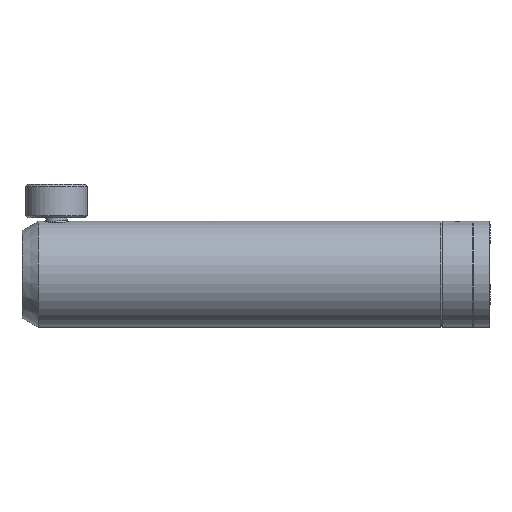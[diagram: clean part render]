
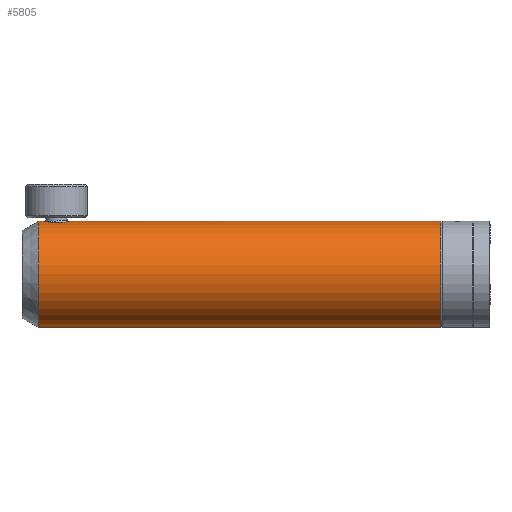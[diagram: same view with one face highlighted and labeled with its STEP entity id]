
A CAD part, left-side view. The second image highlights one B-rep face of the part: STEP entity #5805.
In plain terms, the highlighted cylindrical face has radius 12.497 mm (diameter 24.994 mm), a partial arc.
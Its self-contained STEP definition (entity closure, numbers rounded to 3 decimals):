
#3859=DIRECTION('',(0.,1.,0.));
#3860=VECTOR('',#3859,87.402);
#3861=CARTESIAN_POINT('',(-28.909,-72.492,
23.27));
#3862=LINE('',#3861,#3860);
#3863=CARTESIAN_POINT('',(-28.909,14.91,23.27));
#3895=DIRECTION('',(0.,-1.,0.));
#3896=VECTOR('',#3895,94.72);
#3897=CARTESIAN_POINT('',(-28.909,22.228,
-1.723));
#3898=LINE('',#3897,#3896);
#3907=CARTESIAN_POINT('',(-28.909,-72.492,
10.773));
#3908=DIRECTION('',(0.,1.,0.));
#3909=DIRECTION('',(0.,0.,-1.));
#3910=AXIS2_PLACEMENT_3D('',#3907,#3908,#3909);
#3912=DIRECTION('',(0.,-1.,0.));
#3913=VECTOR('',#3912,1.318);
#3914=CARTESIAN_POINT('',(-28.909,22.228,23.27));
#3915=LINE('',#3914,#3913);
#3916=CARTESIAN_POINT('',(-28.909,20.91,23.27));
#3917=CARTESIAN_POINT('',(-29.104,20.91,23.27));
#3918=CARTESIAN_POINT('',(-29.489,20.872,23.261));
#3919=CARTESIAN_POINT('',(-30.059,20.701,23.221));
#3920=CARTESIAN_POINT('',(-30.583,20.422,23.161));
#3921=CARTESIAN_POINT('',(-31.046,20.042,23.089));
#3922=CARTESIAN_POINT('',(-31.422,19.583,23.016));
#3923=CARTESIAN_POINT('',(-31.702,19.056,22.955));
#3924=CARTESIAN_POINT('',(-31.871,18.489,22.914));
#3925=CARTESIAN_POINT('',(-31.909,18.105,22.905));
#3926=CARTESIAN_POINT('',(-31.909,17.91,22.905));
#3928=CARTESIAN_POINT('',(-31.909,17.91,22.905));
#3929=CARTESIAN_POINT('',(-31.909,17.714,22.905));
#3930=CARTESIAN_POINT('',(-31.871,17.33,22.914));
#3931=CARTESIAN_POINT('',(-31.702,16.762,22.955));
#3932=CARTESIAN_POINT('',(-31.422,16.236,23.016));
#3933=CARTESIAN_POINT('',(-31.046,15.777,23.089));
#3934=CARTESIAN_POINT('',(-30.583,15.397,23.161));
#3935=CARTESIAN_POINT('',(-30.06,15.118,23.221));
#3936=CARTESIAN_POINT('',(-29.489,14.947,23.261));
#3937=CARTESIAN_POINT('',(-29.104,14.91,23.27));
#3938=CARTESIAN_POINT('',(-28.909,14.91,23.27));
#3944=CARTESIAN_POINT('',(-28.909,22.228,10.773));
#3945=DIRECTION('',(0.,1.,0.));
#3946=DIRECTION('',(0.,0.,-1.));
#3947=AXIS2_PLACEMENT_3D('',#3944,#3945,#3946);
#5607=CARTESIAN_POINT('',(-28.909,22.228,23.27));
#5608=VERTEX_POINT('',#5607);
#5609=CARTESIAN_POINT('',(-28.909,22.228,
-1.723));
#5610=VERTEX_POINT('',#5609);
#5623=VERTEX_POINT('',#3863);
#5625=VERTEX_POINT('',#3916);
#5626=VERTEX_POINT('',#3926);
#5720=CARTESIAN_POINT('',(-28.909,-72.492,
23.27));
#5721=CARTESIAN_POINT('',(-28.909,-72.492,
-1.723));
#5722=VERTEX_POINT('',#5720);
#5723=VERTEX_POINT('',#5721);
#5788=CARTESIAN_POINT('',(-28.909,26.038,10.773));
#5789=DIRECTION('',(0.,-1.,0.));
#5790=DIRECTION('',(0.,0.,-1.));
#5791=AXIS2_PLACEMENT_3D('',#5788,#5789,#5790);
#5792=CYLINDRICAL_SURFACE('',#5791,12.497);
#5793=ORIENTED_EDGE('',*,*,#5779,.F.);
#5794=ORIENTED_EDGE('',*,*,#5754,.F.);
#5796=ORIENTED_EDGE('',*,*,#5795,.T.);
#5797=ORIENTED_EDGE('',*,*,#5750,.T.);
#5799=ORIENTED_EDGE('',*,*,#5798,.T.);
#5801=ORIENTED_EDGE('',*,*,#5800,.T.);
#5802=ORIENTED_EDGE('',*,*,#5744,.F.);
#5803=EDGE_LOOP('',(#5793,#5794,#5796,#5797,#5799,#5801,#5802));
#5804=FACE_OUTER_BOUND('',#5803,.F.);
#5805=ADVANCED_FACE('',(#5804),#5792,.T.);
#3911=CIRCLE('',#3910,12.497);
#3927=B_SPLINE_CURVE_WITH_KNOTS('',3,(#3916,#3917,#3918,#3919,#3920,#3921,#3922,
#3923,#3924,#3925,#3926),.UNSPECIFIED.,.F.,.F.,(4,1,1,1,1,1,1,1,4),(0.,
0.125,0.25,0.375,0.5,0.625,0.75,0.875,1.),.UNSPECIFIED.);
#3939=B_SPLINE_CURVE_WITH_KNOTS('',3,(#3928,#3929,#3930,#3931,#3932,#3933,#3934,
#3935,#3936,#3937,#3938),.UNSPECIFIED.,.F.,.F.,(4,1,1,1,1,1,1,1,4),(0.,
0.125,0.25,0.375,0.5,0.625,0.75,0.875,1.),.UNSPECIFIED.);
#3948=CIRCLE('',#3947,12.497);
#5744=EDGE_CURVE('',#5722,#5623,#3862,.T.);
#5750=EDGE_CURVE('',#5608,#5625,#3915,.T.);
#5754=EDGE_CURVE('',#5610,#5723,#3898,.T.);
#5779=EDGE_CURVE('',#5723,#5722,#3911,.T.);
#5795=EDGE_CURVE('',#5610,#5608,#3948,.T.);
#5798=EDGE_CURVE('',#5625,#5626,#3927,.T.);
#5800=EDGE_CURVE('',#5626,#5623,#3939,.T.);
